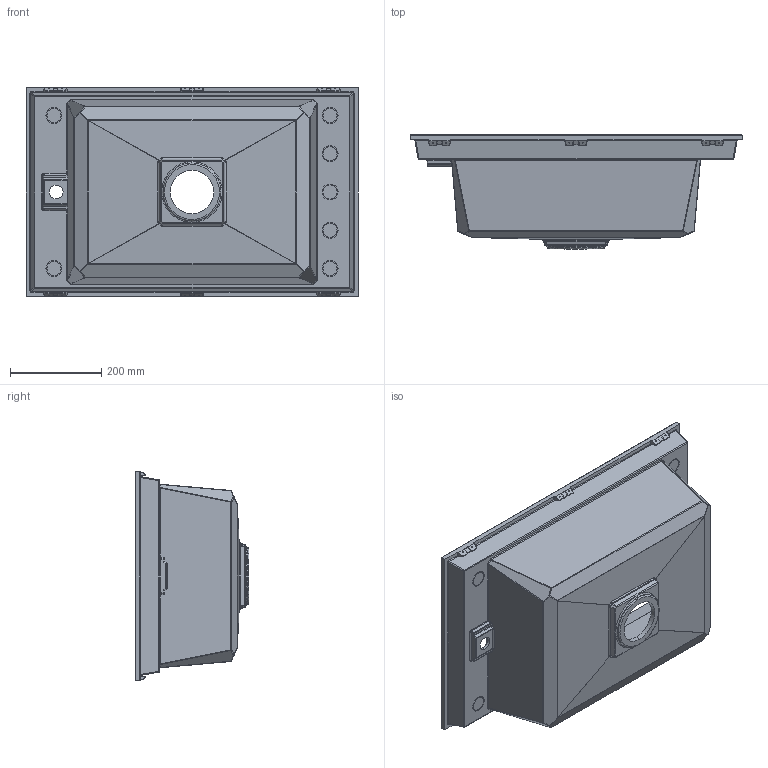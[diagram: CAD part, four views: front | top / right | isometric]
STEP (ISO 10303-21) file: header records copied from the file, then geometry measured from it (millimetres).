
FILE_DESCRIPTION (( 'STEP AP203' ), '1' );
FILE_NAME ('Value 130_sottotop.STEP', '2018-10-11T10:34:29', ( '' ), ( '' ), 'SwSTEP 2.0', 'SolidWorks 2013', '' );
FILE_SCHEMA (( 'CONFIG_CONTROL_DESIGN' ));
Products named in the file (1): Value 130_sottotop
Bounding box: 726.33 x 248.92 x 456.33 mm (x, y, z)
Volume: 5503060.5 mm3; surface area: 1383896.6 mm2
Topology: 1 solids, 1 shells, 953 faces, 2257 edges, 1263 vertices
Faces by surface type: cylinder 420, bspline 344, plane 185, cone 4
Entity records: 36660 total; most frequent: CARTESIAN_POINT 16947, ORIENTED_EDGE 4394, DIRECTION 3802, EDGE_CURVE 2197, AXIS2_PLACEMENT_3D 1471, VERTEX_POINT 1263, EDGE_LOOP 998, ADVANCED_FACE 953
